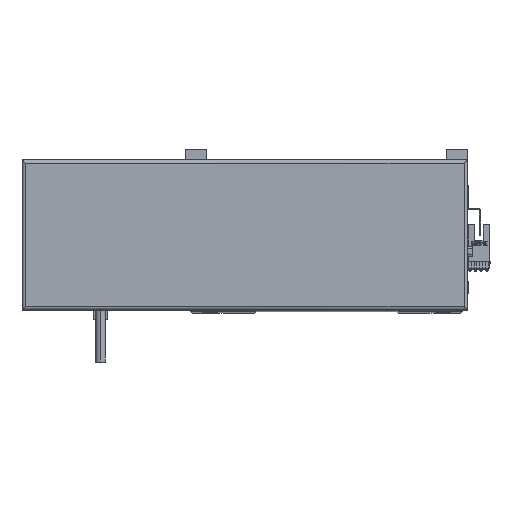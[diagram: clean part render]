
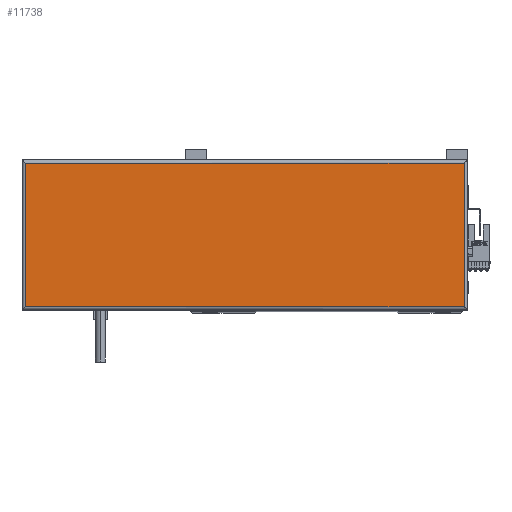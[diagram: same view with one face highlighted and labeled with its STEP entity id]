
A CAD part, top view. The second image highlights one B-rep face of the part: STEP entity #11738.
In plain terms, the highlighted planar face has unit normal (0, 0, 1).
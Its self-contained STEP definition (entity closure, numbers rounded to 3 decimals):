
#735 = DIRECTION ( 'NONE',  ( -1., 0., 0. ) ) ;
#3708 = EDGE_CURVE ( 'NONE', #30271, #5165, #25312, .T. ) ;
#4400 = EDGE_CURVE ( 'NONE', #42715, #30271, #44206, .T. ) ;
#5165 = VERTEX_POINT ( 'NONE', #40566 ) ;
#5492 = LINE ( 'NONE', #19898, #43338 ) ;
#7217 = ORIENTED_EDGE ( 'NONE', *, *, #4400, .T. ) ;
#7339 = VERTEX_POINT ( 'NONE', #13974 ) ;
#8165 = CARTESIAN_POINT ( 'NONE',  ( 0., 88., 44.8 ) ) ;
#9151 = DIRECTION ( 'NONE',  ( 0., 0., 1. ) ) ;
#11738 = ADVANCED_FACE ( 'NONE', ( #43755 ), #20399, .T. ) ;
#12235 = EDGE_LOOP ( 'NONE', ( #7217, #17065, #40321, #42430 ) ) ;
#13974 = CARTESIAN_POINT ( 'NONE',  ( 2., 2., 44.8 ) ) ;
#14130 = EDGE_CURVE ( 'NONE', #5165, #7339, #32191, .T. ) ;
#16117 = CARTESIAN_POINT ( 'NONE',  ( 133.5, 45., 44.8 ) ) ;
#17065 = ORIENTED_EDGE ( 'NONE', *, *, #3708, .T. ) ;
#17671 = DIRECTION ( 'NONE',  ( 0., 1., 0. ) ) ;
#18563 = AXIS2_PLACEMENT_3D ( 'NONE', #16117, #9151, #27742 ) ;
#18814 = CARTESIAN_POINT ( 'NONE',  ( 2., 0., 44.8 ) ) ;
#19898 = CARTESIAN_POINT ( 'NONE',  ( 267., 2., 44.8 ) ) ;
#20399 = PLANE ( 'NONE',  #18563 ) ;
#20741 = VECTOR ( 'NONE', #735, 1000. ) ;
#22905 = CARTESIAN_POINT ( 'NONE',  ( 265., 88., 44.8 ) ) ;
#25312 = LINE ( 'NONE', #8165, #20741 ) ;
#27742 = DIRECTION ( 'NONE',  ( 1., 0., 0. ) ) ;
#30271 = VERTEX_POINT ( 'NONE', #22905 ) ;
#31642 = VECTOR ( 'NONE', #37986, 1000. ) ;
#32191 = LINE ( 'NONE', #18814, #31642 ) ;
#34476 = VECTOR ( 'NONE', #17671, 1000. ) ;
#35890 = CARTESIAN_POINT ( 'NONE',  ( 265., 90., 44.8 ) ) ;
#37986 = DIRECTION ( 'NONE',  ( 0., -1., 0. ) ) ;
#40321 = ORIENTED_EDGE ( 'NONE', *, *, #14130, .T. ) ;
#40566 = CARTESIAN_POINT ( 'NONE',  ( 2., 88., 44.8 ) ) ;
#41245 = CARTESIAN_POINT ( 'NONE',  ( 265., 2., 44.8 ) ) ;
#42430 = ORIENTED_EDGE ( 'NONE', *, *, #44696, .T. ) ;
#42715 = VERTEX_POINT ( 'NONE', #41245 ) ;
#43338 = VECTOR ( 'NONE', #45498, 1000. ) ;
#43755 = FACE_OUTER_BOUND ( 'NONE', #12235, .T. ) ;
#44206 = LINE ( 'NONE', #35890, #34476 ) ;
#44696 = EDGE_CURVE ( 'NONE', #7339, #42715, #5492, .T. ) ;
#45498 = DIRECTION ( 'NONE',  ( 1., 0., 0. ) ) ;
